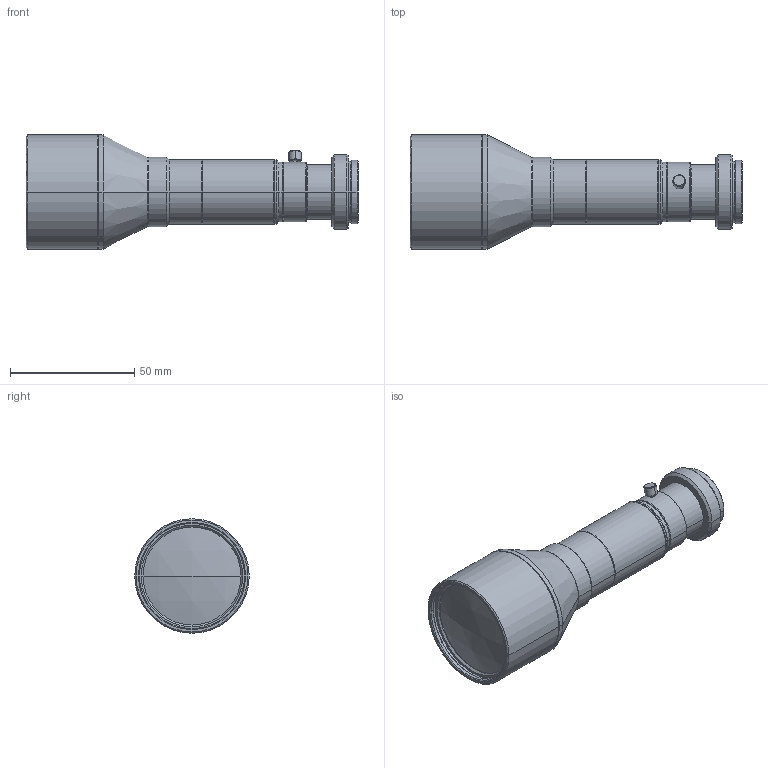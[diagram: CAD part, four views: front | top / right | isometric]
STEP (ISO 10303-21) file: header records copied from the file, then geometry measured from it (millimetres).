
FILE_DESCRIPTION (( 'STEP AP203' ), '1' );
FILE_NAME ('VS-THV05-110_S.STEP', '2016-04-11T00:56:25', ( '' ), ( '' ), 'SwSTEP 2.0', 'SolidWorks 2016', '' );
FILE_SCHEMA (( 'CONFIG_CONTROL_DESIGN' ));
Length unit declared in the file: millimetre
Products named in the file (1): VS-THV05-110_S
Bounding box: 133.47 x 46 x 46 mm (x, y, z)
Volume: 105585.5 mm3; surface area: 18383.9 mm2
Topology: 1 solids, 1 shells, 137 faces, 272 edges, 152 vertices
Faces by surface type: cone 68, cylinder 50, plane 15, sphere 4
Entity records: 3599 total; most frequent: DIRECTION 698, CARTESIAN_POINT 594, ORIENTED_EDGE 544, AXIS2_PLACEMENT_3D 290, EDGE_CURVE 272, VERTEX_POINT 152, EDGE_LOOP 152, CIRCLE 152
